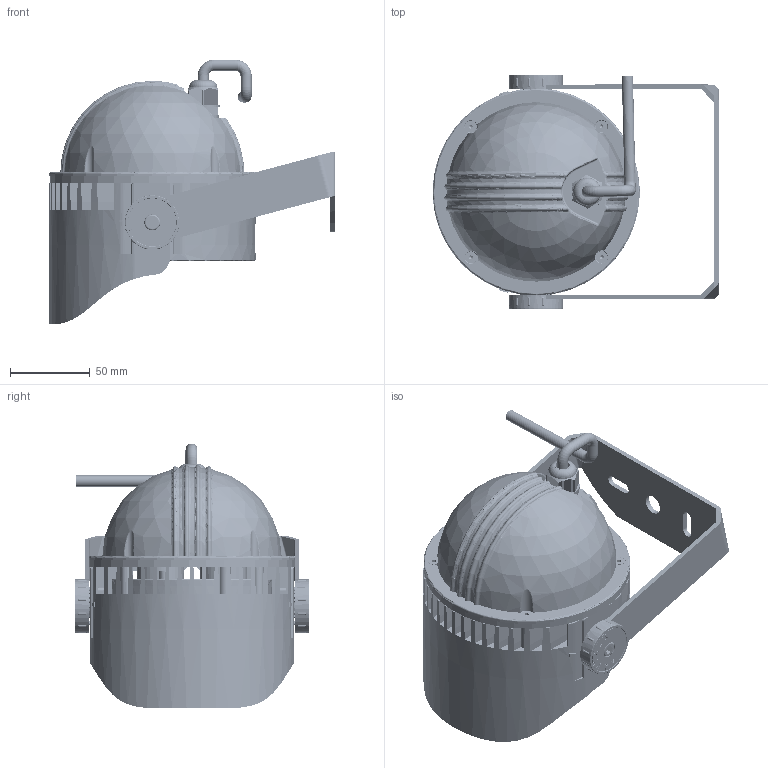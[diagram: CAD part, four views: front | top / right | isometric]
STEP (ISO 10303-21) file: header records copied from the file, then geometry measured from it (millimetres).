
FILE_DESCRIPTION((''),'2;1');
FILE_NAME('B3BH0129-0311_ASM_ASM','2022-03-11T',('Administrator'),(''),'CREO PARAMETRIC BY PTC INC, 2015290','CREO PARAMETRIC BY PTC INC, 2015290','');
FILE_SCHEMA(('CONFIG_CONTROL_DESIGN'));
Length unit declared in the file: millimetre
Products named in the file (30): B3BH__1; C_6__1_1_4_1_1_2; 3BC-GLASS-102_4_1_1_1; B3BC-26_1_1; B3BC-20_2_1_4_1_1_1; XJIAO_2_4_1_1_1; M6_1_1_4_1_1_1; 3BD-P__4_2_4_1_1_1; 3BU_1_4_1_1_1; LI_2_4_1_1_1; HEXAGON_SOCKET_COUNTERSUNK_HEAD; ZHIJIA00_5_1_1_1; MUZHU_5_1_1_1; ZUJIAN00_ASM_3_ASM_1_ASM_1_ASM__ASM; B56-036B_1; B56_70MM-CFE-NC_2_1; 036B_1; YT-M3X4L_1; B56-036B_ASM_1_ASM; 3BHFGQ_4; FWOWANG-70-3_3; 3BHFPMIAN_3; PAD_1_135_1_1; FANGUANGSAI-1_1_135_1_1; FANGSHUISAI_1_135_2_1; POWER-LINE_8_1; PG9_ASM_1_ASM_1_ASM; B3BH0129_ASM_5_ASM; 2002_15; B3BH0129-0311_ASM_ASM
Assembly tree (43 placements, depth 4):
  B3BH0129-0311_ASM_ASM
    B3BH0129_ASM_5_ASM
      B3BH__1
      C_6__1_1_4_1_1_2
      3BC-GLASS-102_4_1_1_1
      B3BC-26_1_1
      B3BC-20_2_1_4_1_1_1
      XJIAO_2_4_1_1_1
      M6_1_1_4_1_1_1  x2
      3BD-P__4_2_4_1_1_1  x2
      3BU_1_4_1_1_1  x2
      LI_2_4_1_1_1  x4
      HEXAGON_SOCKET_COUNTERSUNK_HEAD  x8
      ZUJIAN00_ASM_3_ASM_1_ASM_1_ASM__ASM
        ZHIJIA00_5_1_1_1
        MUZHU_5_1_1_1
      B56-036B_ASM_1_ASM
        B56-036B_1
        B56_70MM-CFE-NC_2_1
        036B_1
        YT-M3X4L_1  x2
      3BHFGQ_4
      FWOWANG-70-3_3
      3BHFPMIAN_3
      PG9_ASM_1_ASM_1_ASM
        PAD_1_135_1_1
        FANGUANGSAI-1_1_135_1_1
        FANGSHUISAI_1_135_2_1
        POWER-LINE_8_1
    2002_15
Bounding box: 180 x 147.4 x 166.41 mm (x, y, z)
Volume: 562139.5 mm3; surface area: 358471.2 mm2
Topology: 39 solids, 40 shells, 8377 faces, 23057 edges, 15085 vertices
Faces by surface type: plane 5330, bspline 1396, cylinder 1057, cone 412, torus 100, extrusion 67, sphere 15
Entity records: 266553 total; most frequent: CARTESIAN_POINT 97170, ORIENTED_EDGE 38620, DIRECTION 29627, EDGE_CURVE 19310, VERTEX_POINT 12656, VECTOR 11899, LINE 11865, AXIS2_PLACEMENT_3D 8864
